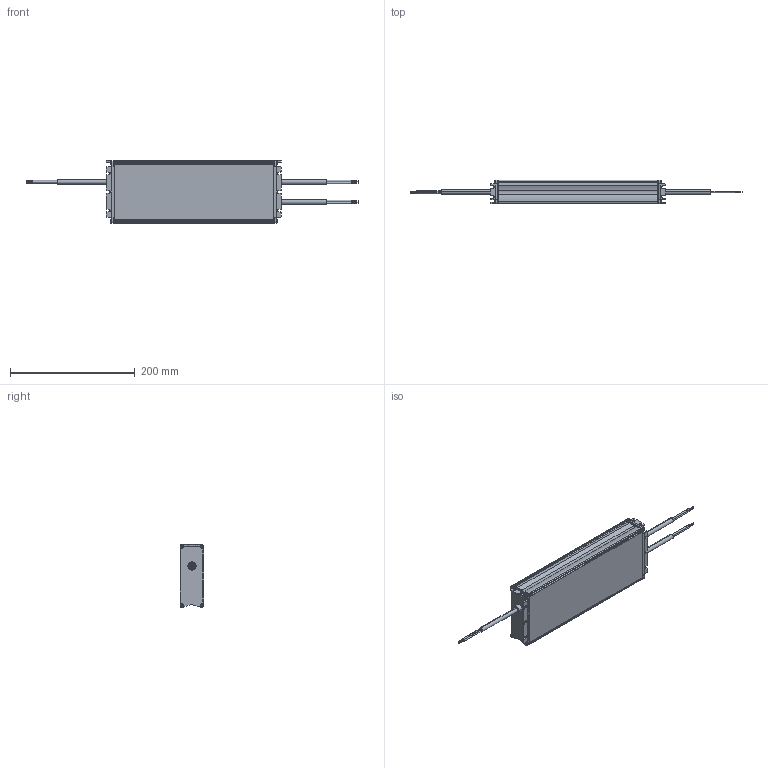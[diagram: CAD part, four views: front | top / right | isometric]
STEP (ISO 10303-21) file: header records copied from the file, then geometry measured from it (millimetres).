
FILE_DESCRIPTION((''),'2;1');
FILE_NAME('DRIVER_JPVO300024FA_ASM','2020-11-26T',('TAYLOR.PH.CHAO'),(''),'CREO PARAMETRIC BY PTC INC, 2018220','CREO PARAMETRIC BY PTC INC, 2018220','');
FILE_SCHEMA(('CONFIG_CONTROL_DESIGN'));
Length unit declared in the file: millimetre
Products named in the file (10): HOUSING_216X100X38_SLIDE; PWB_JPVO300024FA; SEALANT_OUTPUT_JPVO200024FA; BRACKET_OUTPUT_JPVO200024FA; SEALANT_INPUT_JPVO200024FA; BRACKET_INPUT_JPVO200024FA; CABLE_OUTPUT_XXXW; CABLE_INPUT_CC_XXXW; SCREW_PAN-M3-10L-NI; DRIVER_JPVO300024FA_ASM
Assembly tree (17 placements, depth 2):
  DRIVER_JPVO300024FA_ASM
    HOUSING_216X100X38_SLIDE
    PWB_JPVO300024FA
    SEALANT_OUTPUT_JPVO200024FA
    BRACKET_OUTPUT_JPVO200024FA
    SEALANT_INPUT_JPVO200024FA
    BRACKET_INPUT_JPVO200024FA
    CABLE_OUTPUT_XXXW  x2
    CABLE_INPUT_CC_XXXW
    SCREW_PAN-M3-10L-NI  x8
Bounding box: 533.3 x 38 x 100 mm (x, y, z)
Surface area: 243393.7 mm2 (no closed solid volume)
Topology: 0 solids, 25 shells, 1655 faces, 4529 edges, 2984 vertices
Faces by surface type: plane 1147, cylinder 452, torus 32, cone 24
Entity records: 42344 total; most frequent: CARTESIAN_POINT 7638, ORIENTED_EDGE 7310, DIRECTION 6907, EDGE_CURVE 3655, VECTOR 2983, LINE 2983, VERTEX_POINT 2418, AXIS2_PLACEMENT_3D 1962
